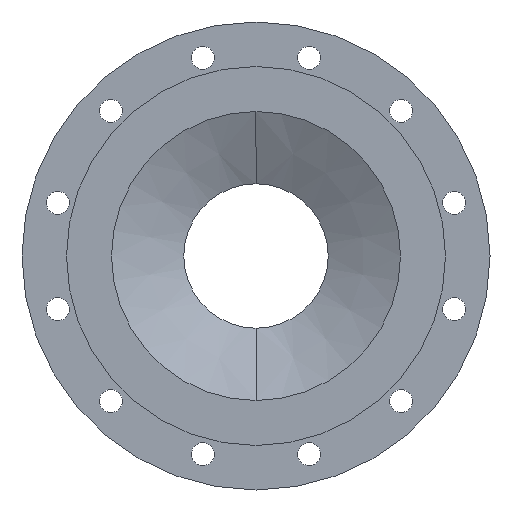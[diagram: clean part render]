
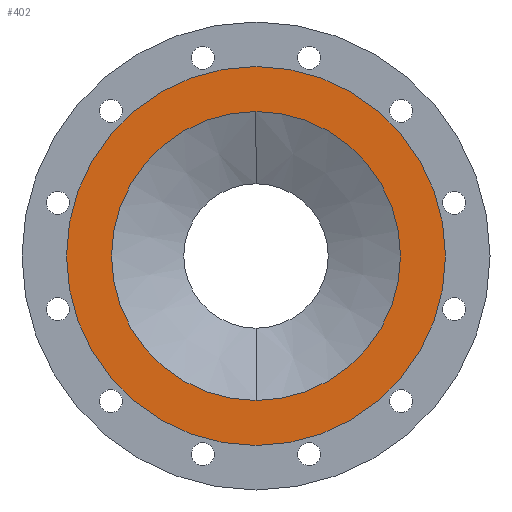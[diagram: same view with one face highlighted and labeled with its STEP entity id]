
A CAD part, left-side view. The second image highlights one B-rep face of the part: STEP entity #402.
In plain terms, the highlighted planar face has unit normal (-1, 0, 0).
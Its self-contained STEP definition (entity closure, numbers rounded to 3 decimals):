
#402=ADVANCED_FACE('',(#805,#806),#807,.F.);
#805=FACE_BOUND('',#1359,.T.);
#806=FACE_OUTER_BOUND('',#1360,.T.);
#807=PLANE('',#1361);
#1359=EDGE_LOOP('',(#1952,#1953));
#1360=EDGE_LOOP('',(#1954,#1955));
#1361=AXIS2_PLACEMENT_3D('',#1956,#1957,#1958);
#1952=ORIENTED_EDGE('',*,*,#3004,.T.);
#1953=ORIENTED_EDGE('',*,*,#2908,.T.);
#1954=ORIENTED_EDGE('',*,*,#3001,.F.);
#1955=ORIENTED_EDGE('',*,*,#3005,.F.);
#1956=CARTESIAN_POINT('',(0.0,0.0,0.));
#1957=DIRECTION('',(1.0,0.0,0.));
#1958=DIRECTION('',(0.,0.0,-1.0));
#2908=EDGE_CURVE('',#3389,#3387,#3390,.T.);
#3001=EDGE_CURVE('',#3544,#3546,#3547,.T.);
#3004=EDGE_CURVE('',#3387,#3389,#3550,.T.);
#3005=EDGE_CURVE('',#3546,#3544,#3551,.T.);
#3387=VERTEX_POINT('',#4049);
#3389=VERTEX_POINT('',#4052);
#3390=CIRCLE('',#4053,125.0);
#3544=VERTEX_POINT('',#4257);
#3546=VERTEX_POINT('',#4260);
#3547=CIRCLE('',#4261,164.0);
#3550=CIRCLE('',#4265,125.0);
#3551=CIRCLE('',#4266,164.0);
#4049=CARTESIAN_POINT('',(0.,0.0,-125.0));
#4052=CARTESIAN_POINT('',(0.,0.,125.0));
#4053=AXIS2_PLACEMENT_3D('',#4851,#4852,#4853);
#4257=CARTESIAN_POINT('',(0.,0.0,-164.0));
#4260=CARTESIAN_POINT('',(0.,0.,164.0));
#4261=AXIS2_PLACEMENT_3D('',#4956,#4957,#4958);
#4265=AXIS2_PLACEMENT_3D('',#4960,#4961,#4962);
#4266=AXIS2_PLACEMENT_3D('',#4963,#4964,#4965);
#4851=CARTESIAN_POINT('',(0.0,0.0,0.0));
#4852=DIRECTION('',(1.0,0.0,0.));
#4853=DIRECTION('',(0.,0.0,-1.0));
#4956=CARTESIAN_POINT('',(0.0,0.0,0.));
#4957=DIRECTION('',(1.0,0.0,0.));
#4958=DIRECTION('',(0.,0.0,-1.0));
#4960=CARTESIAN_POINT('',(0.0,0.0,0.0));
#4961=DIRECTION('',(1.0,0.0,0.));
#4962=DIRECTION('',(0.,0.0,-1.0));
#4963=CARTESIAN_POINT('',(0.0,0.0,0.));
#4964=DIRECTION('',(1.0,0.0,0.));
#4965=DIRECTION('',(0.,0.0,-1.0));
